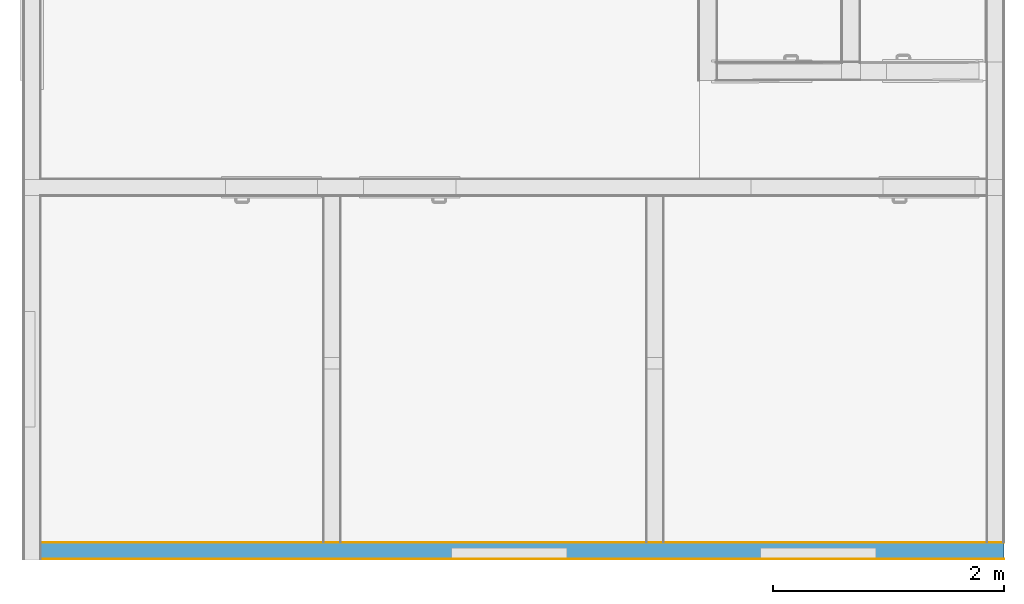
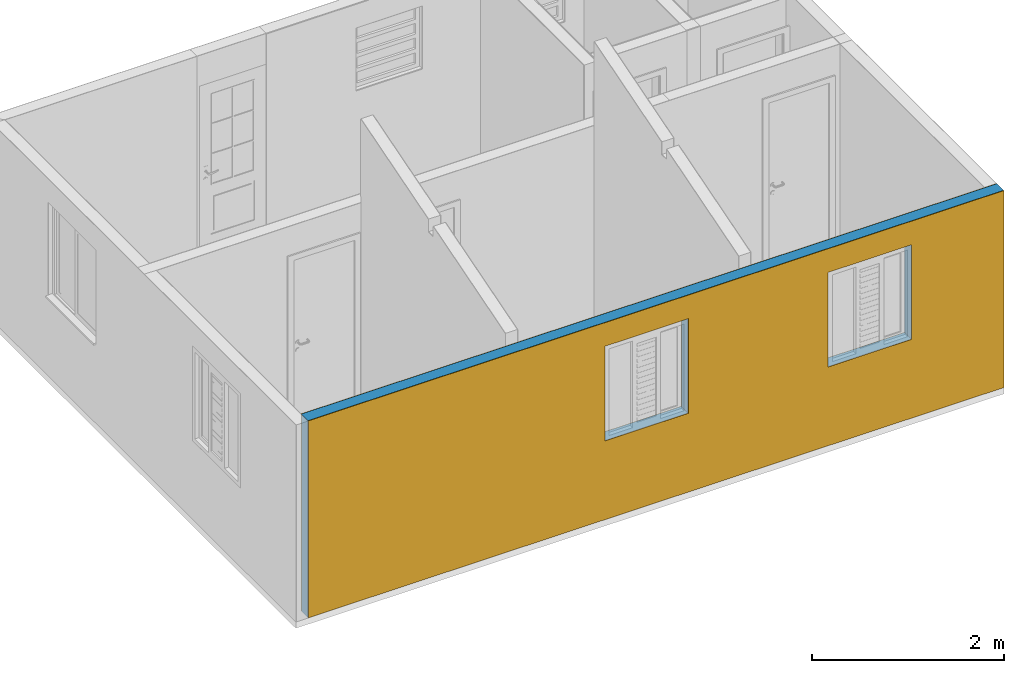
# One storey, part 7 of 11: 2 coverings, 1 building element part, 2 openings, 1 element without a shape of its own.
"""IFC2X3 building model written with IfcOpenShell, lengths in millimetres."""

from ifc_helpers import new_model, entity, si_unit, converted_unit, derived_unit, money_unit, direction, frame, origin_with_axes, origin_2d_with_axis, place, context, subcontext, project, spatial, polyline, rectangle, outline, extrude, material, type_object, element, aggregate, save


model = new_model("IFC2X3")

# Units and contexts
model_context = context("Model", 3, precision=0.01, world=origin_with_axes(), true_north=direction((0.0, 1.0)))
body_context = subcontext(model_context, "Body", "Model", "MODEL_VIEW")
ifc_project = project(units=[si_unit("LENGTHUNIT", "METRE", prefix="MILLI"), si_unit("AREAUNIT", "SQUARE_METRE"), si_unit("VOLUMEUNIT", "CUBIC_METRE"), converted_unit("PLANEANGLEUNIT", "DEGREE", entity("IfcPlaneAngleMeasure", 0.0174532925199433), si_unit("PLANEANGLEUNIT", "RADIAN"), dimensions=[0, 0, 0, 0, 0, 0, 0]), money_unit("USD"), converted_unit("TIMEUNIT", "Year", entity("IfcTimeMeasure", 31557600.0), si_unit("TIMEUNIT", "SECOND"), dimensions=[0, 0, 1, 0, 0, 0, 0]), si_unit("MASSUNIT", "GRAM", prefix="KILO"), si_unit("THERMODYNAMICTEMPERATUREUNIT", "DEGREE_CELSIUS"), si_unit("LUMINOUSINTENSITYUNIT", "LUMEN"), si_unit("ENERGYUNIT", "JOULE", prefix="MEGA"), derived_unit("THERMALCONDUCTANCEUNIT", [(si_unit("POWERUNIT", "WATT"), 1), (si_unit("LENGTHUNIT", "METRE"), -1), (si_unit("THERMODYNAMICTEMPERATUREUNIT", "KELVIN"), -1)]), derived_unit("SPECIFICHEATCAPACITYUNIT", [(si_unit("ENERGYUNIT", "JOULE"), 1), (si_unit("MASSUNIT", "GRAM", prefix="KILO"), -1), (si_unit("THERMODYNAMICTEMPERATUREUNIT", "KELVIN"), -1)]), derived_unit("MASSDENSITYUNIT", [(si_unit("MASSUNIT", "GRAM", prefix="KILO"), 1), (si_unit("VOLUMEUNIT", "CUBIC_METRE"), -1)])], contexts=[model_context])

# Site, building, storey
site_placement = place(None, origin_with_axes())
site = spatial("IfcSite", under=ifc_project, at=site_placement, Name="Local", CompositionType="ELEMENT")
building_placement = place(site_placement, origin_with_axes())
building = spatial("IfcBuilding", under=site, at=building_placement, Name="Construção", CompositionType="ELEMENT")
storey_placement = place(building_placement, origin_with_axes())
storey = spatial("IfcBuildingStorey", under=building, at=storey_placement, Name="Pavimento Térreo", CompositionType="ELEMENT", Elevation=0.0)

# Wall, openings, coverings, building element part
wall_type = type_object("IfcWallType", Name="Alvenaria 140, Rebocada 2 Faces 150", PredefinedType="NOTDEFINED")
wall_placement = place(storey_placement, frame((150.0, 0.0, 0.0), z_axis=(0.0, 0.0, 1.0), x_axis=(1.0, 0.0, 0.0)))
wall = element("IfcWall", 1, at=wall_placement, inside=storey, type_object=wall_type, Name="Parede-02")
opening_1_placement = place(wall_placement, frame((6740.000000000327, 0.0, 1000.0), z_axis=(0.0, 0.0, 1.0), x_axis=(1.0, 0.0, 0.0)))
element("IfcOpeningElement", 2, at=opening_1_placement, cuts=wall, Name="J05", context=body_context, shape_type="SweptSolid", body=[
    extrude(rectangle(XDim=1000.0, YDim=1200.0, at=origin_2d_with_axis()), frame((0.0, 150.0000000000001, 600.0000000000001), z_axis=(0.0, -1.0, 0.0), x_axis=(-1.0, 0.0, 0.0)), (0.0, 0.0, 1.0), 450.0000000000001),
])
opening_2_placement = place(wall_placement, frame((4060.000000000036, 0.0, 1000.0), z_axis=(0.0, 0.0, 1.0), x_axis=(1.0, 0.0, 0.0)))
element("IfcOpeningElement", 3, at=opening_2_placement, cuts=wall, Name="J04", context=body_context, shape_type="SweptSolid", body=[
    extrude(rectangle(XDim=1000.0, YDim=1200.0, at=origin_2d_with_axis()), frame((0.0, 150.0000000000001, 600.0000000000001), z_axis=(0.0, -1.0, 0.0), x_axis=(-1.0, 0.0, 0.0)), (0.0, 0.0, 1.0), 450.0000000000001),
])
ifc_material_1 = material(Name="Reboco DEF")
covering_1_placement = place(wall_placement, origin_with_axes())
covering_1 = element("IfcCovering", 4, at=covering_1_placement, material=ifc_material_1, Name="Reboco DEF", PredefinedType="CLADDING", context=body_context, shape_type="SweptSolid", body=[
    extrude(outline(polyline([(0.0, 0.0), (8350.0, 0.0), (8350.0, 5.000000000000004), (0.0, 5.000000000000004), (0.0, 0.0)])), origin_with_axes(), (0.0, 0.0, 1.0), 2500.0),
])
covering_2_placement = place(wall_placement, origin_with_axes())
covering_2 = element("IfcCovering", 5, at=covering_2_placement, material=ifc_material_1, Name="Reboco DEF", PredefinedType="CLADDING", context=body_context, shape_type="SweptSolid", body=[
    extrude(outline(polyline([(0.0, 145.0), (8350.0, 145.0), (8350.0, 150.0), (0.0, 150.0), (0.0, 145.0)])), origin_with_axes(), (0.0, 0.0, 1.0), 2500.0),
])
ifc_material_2 = material(Name="Bloco de Concreto - Estrutural DEF")
building_element_part_placement = place(wall_placement, origin_with_axes())
building_element_part = element("IfcBuildingElementPart", 6, at=building_element_part_placement, material=ifc_material_2, Name="Bloco de Concreto - Estrutural DEF", context=body_context, shape_type="SweptSolid", body=[
    extrude(outline(polyline([(0.0, 4.999999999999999), (8350.0, 4.999999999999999), (8350.0, 145.0), (0.0, 145.0), (0.0, 4.999999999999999)])), origin_with_axes(), (0.0, 0.0, 1.0), 2500.0),
])
aggregate(wall, [covering_1, covering_2, building_element_part])

save(model, "model.ifc")
